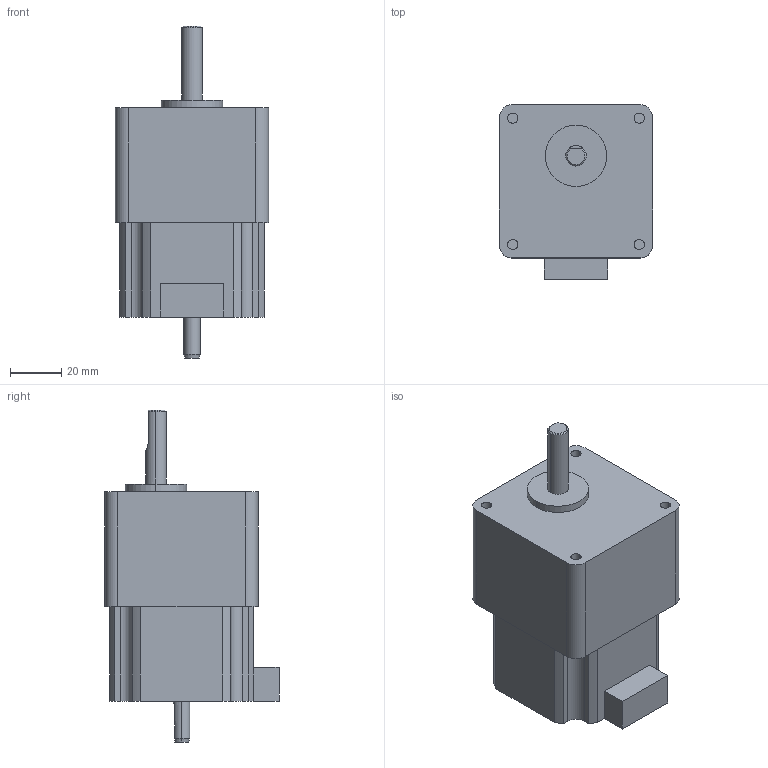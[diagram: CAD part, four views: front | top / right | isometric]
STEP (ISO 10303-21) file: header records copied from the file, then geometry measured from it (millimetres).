
FILE_DESCRIPTION (( 'STEP AP203' ), '1' );
FILE_NAME ('PMSA-仭56D1D-S仭_3D.STEP', '2020-12-07T06:23:53', ( '' ), ( '' ), 'SwSTEP 2.0', 'SolidWorks 2018', '' );
FILE_SCHEMA (( 'CONFIG_CONTROL_DESIGN' ));
Length unit declared in the file: millimetre
Products named in the file (1): PMSA-仭56D1D-S仭_3D
Bounding box: 60 x 68.2 x 130 mm (x, y, z)
Volume: 272976.3 mm3; surface area: 28335.6 mm2
Topology: 3 solids, 3 shells, 73 faces, 176 edges, 116 vertices
Faces by surface type: plane 36, cylinder 31, cone 6
Entity records: 2255 total; most frequent: CARTESIAN_POINT 411, DIRECTION 388, ORIENTED_EDGE 352, EDGE_CURVE 176, AXIS2_PLACEMENT_3D 143, VERTEX_POINT 116, VECTOR 102, LINE 102
